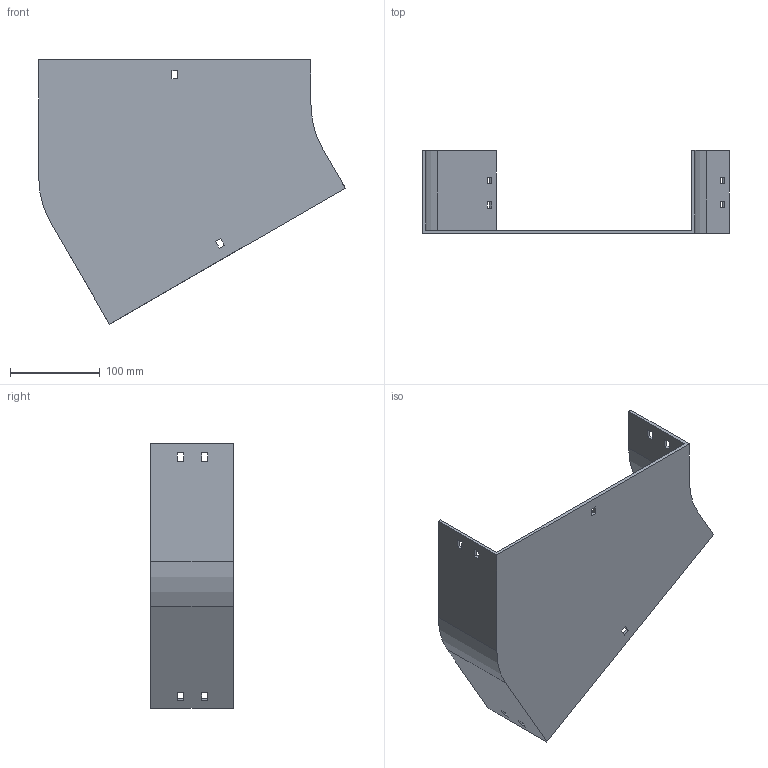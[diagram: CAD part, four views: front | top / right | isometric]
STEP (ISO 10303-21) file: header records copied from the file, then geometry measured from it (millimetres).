
FILE_DESCRIPTION (( 'STEP AP214' ), '1' );
FILE_NAME ('12B1I300.step', '2025-02-21T09:36:17', ( '' ), ( '' ), 'SwSTEP 2.0', 'SolidWorks 2023', '' );
FILE_SCHEMA (( 'AUTOMOTIVE_DESIGN' ));
Length unit declared in the file: millimetre
Products named in the file (1): 12B1I300
Bounding box: 342.4 x 92.5 x 295.3 mm (x, y, z)
Volume: 393387.5 mm3; surface area: 230972.6 mm2
Topology: 1 solids, 1 shells, 58 faces, 168 edges, 112 vertices
Faces by surface type: plane 54, cylinder 4
Entity records: 1943 total; most frequent: CARTESIAN_POINT 339, ORIENTED_EDGE 336, DIRECTION 294, EDGE_CURVE 168, VECTOR 160, LINE 160, VERTEX_POINT 112, EDGE_LOOP 78
